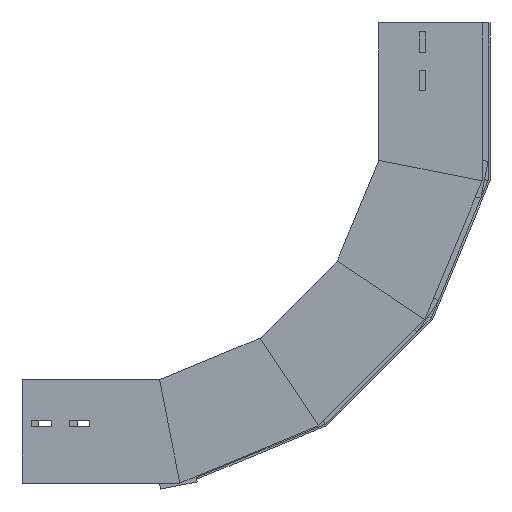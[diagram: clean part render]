
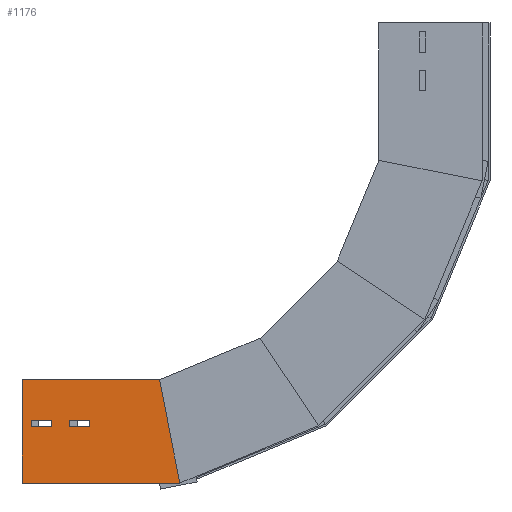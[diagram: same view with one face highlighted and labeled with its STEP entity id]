
A CAD part, left-side view. The second image highlights one B-rep face of the part: STEP entity #1176.
In plain terms, the highlighted planar face has unit normal (-1, 0, 0) as drawn and (1, 0, 0) by its records, which use the part's own axes.
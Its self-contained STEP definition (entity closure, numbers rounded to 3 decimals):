
#14 = EDGE_CURVE ( 'NONE', #973, #311, #1726, .T. ) ;
#24 = ORIENTED_EDGE ( 'NONE', *, *, #599, .T. ) ;
#34 = CARTESIAN_POINT ( 'NONE',  ( 0., 68.5, -9.835 ) ) ;
#46 = DIRECTION ( 'NONE',  ( 0., -1., 0. ) ) ;
#49 = EDGE_LOOP ( 'NONE', ( #577, #1429, #967, #1666 ) ) ;
#86 = ORIENTED_EDGE ( 'NONE', *, *, #884, .T. ) ;
#91 = EDGE_CURVE ( 'NONE', #311, #1499, #1004, .T. ) ;
#94 = DIRECTION ( 'NONE',  ( 0., 0., 1. ) ) ;
#117 = VECTOR ( 'NONE', #1771, 1000. ) ;
#123 = LINE ( 'NONE', #855, #1088 ) ;
#137 = VECTOR ( 'NONE', #46, 1000. ) ;
#141 = VECTOR ( 'NONE', #1344, 1000. ) ;
#205 = CARTESIAN_POINT ( 'NONE',  ( 0., 61.5, -51.505 ) ) ;
#218 = DIRECTION ( 'NONE',  ( 0., 0., 1. ) ) ;
#249 = VERTEX_POINT ( 'NONE', #34 ) ;
#269 = VECTOR ( 'NONE', #218, 1000. ) ;
#286 = EDGE_CURVE ( 'NONE', #1499, #1380, #1226, .T. ) ;
#296 = DIRECTION ( 'NONE',  ( 0., 0., -1. ) ) ;
#311 = VERTEX_POINT ( 'NONE', #365 ) ;
#314 = EDGE_CURVE ( 'NONE', #1353, #318, #944, .T. ) ;
#318 = VERTEX_POINT ( 'NONE', #1066 ) ;
#365 = CARTESIAN_POINT ( 'NONE',  ( 0., 112.5, 0. ) ) ;
#421 = CARTESIAN_POINT ( 'NONE',  ( 0., 68.5, -9.835 ) ) ;
#477 = CARTESIAN_POINT ( 'NONE',  ( 0., 112.5, -149.722 ) ) ;
#483 = CARTESIAN_POINT ( 'NONE',  ( 0., 32.93, -165.55 ) ) ;
#490 = EDGE_LOOP ( 'NONE', ( #1543, #953, #86, #24 ) ) ;
#517 = FACE_OUTER_BOUND ( 'NONE', #841, .T. ) ;
#535 = AXIS2_PLACEMENT_3D ( 'NONE', #690, #540, #1287 ) ;
#540 = DIRECTION ( 'NONE',  ( -1., 0., 0. ) ) ;
#546 = DIRECTION ( 'NONE',  ( 0., 1., 0. ) ) ;
#549 = PLANE ( 'NONE',  #535 ) ;
#577 = ORIENTED_EDGE ( 'NONE', *, *, #1175, .T. ) ;
#589 = VECTOR ( 'NONE', #296, 1000. ) ;
#599 = EDGE_CURVE ( 'NONE', #1505, #1619, #1678, .T. ) ;
#608 = LINE ( 'NONE', #1375, #137 ) ;
#622 = VECTOR ( 'NONE', #1740, 1000. ) ;
#630 = VECTOR ( 'NONE', #546, 1000. ) ;
#690 = CARTESIAN_POINT ( 'NONE',  ( 0., 0., 0. ) ) ;
#697 = FACE_BOUND ( 'NONE', #49, .T. ) ;
#720 = CARTESIAN_POINT ( 'NONE',  ( 0., 68.5, -31.835 ) ) ;
#735 = CARTESIAN_POINT ( 'NONE',  ( 0., 68.5, -51.505 ) ) ;
#763 = EDGE_CURVE ( 'NONE', #799, #1353, #880, .T. ) ;
#767 = CARTESIAN_POINT ( 'NONE',  ( 0., 61.5, -73.505 ) ) ;
#799 = VERTEX_POINT ( 'NONE', #720 ) ;
#805 = VECTOR ( 'NONE', #94, 1000. ) ;
#811 = LINE ( 'NONE', #1256, #1613 ) ;
#823 = ORIENTED_EDGE ( 'NONE', *, *, #14, .F. ) ;
#841 = EDGE_LOOP ( 'NONE', ( #917, #823, #1465, #1224 ) ) ;
#855 = CARTESIAN_POINT ( 'NONE',  ( 0., 68.5, -9.835 ) ) ;
#861 = CARTESIAN_POINT ( 'NONE',  ( 0., 68.5, -31.835 ) ) ;
#863 = CARTESIAN_POINT ( 'NONE',  ( 0., 68.5, -73.505 ) ) ;
#880 = LINE ( 'NONE', #861, #1188 ) ;
#884 = EDGE_CURVE ( 'NONE', #1288, #1505, #608, .T. ) ;
#909 = VERTEX_POINT ( 'NONE', #735 ) ;
#917 = ORIENTED_EDGE ( 'NONE', *, *, #91, .F. ) ;
#944 = LINE ( 'NONE', #1541, #269 ) ;
#953 = ORIENTED_EDGE ( 'NONE', *, *, #1431, .T. ) ;
#957 = CARTESIAN_POINT ( 'NONE',  ( 0., 61.5, -51.505 ) ) ;
#967 = ORIENTED_EDGE ( 'NONE', *, *, #763, .T. ) ;
#973 = VERTEX_POINT ( 'NONE', #1116 ) ;
#1004 = LINE ( 'NONE', #1022, #117 ) ;
#1022 = CARTESIAN_POINT ( 'NONE',  ( 0., 112.5, 0. ) ) ;
#1042 = EDGE_CURVE ( 'NONE', #1619, #909, #811, .T. ) ;
#1066 = CARTESIAN_POINT ( 'NONE',  ( 0., 61.5, -9.835 ) ) ;
#1070 = DIRECTION ( 'NONE',  ( 0., -0.981, -0.195 ) ) ;
#1088 = VECTOR ( 'NONE', #1585, 1000. ) ;
#1116 = CARTESIAN_POINT ( 'NONE',  ( 0., 0., 0. ) ) ;
#1175 = EDGE_CURVE ( 'NONE', #318, #249, #123, .T. ) ;
#1176 = ADVANCED_FACE ( 'NONE', ( #1428, #517, #697 ), #549, .F. ) ;
#1181 = CARTESIAN_POINT ( 'NONE',  ( 0., 0., -172.1 ) ) ;
#1188 = VECTOR ( 'NONE', #1708, 1000. ) ;
#1224 = ORIENTED_EDGE ( 'NONE', *, *, #286, .F. ) ;
#1226 = LINE ( 'NONE', #483, #1438 ) ;
#1246 = CARTESIAN_POINT ( 'NONE',  ( 0., 68.5, -51.505 ) ) ;
#1256 = CARTESIAN_POINT ( 'NONE',  ( 0., 68.5, -51.505 ) ) ;
#1287 = DIRECTION ( 'NONE',  ( 0., 0., 1. ) ) ;
#1288 = VERTEX_POINT ( 'NONE', #863 ) ;
#1300 = LINE ( 'NONE', #421, #622 ) ;
#1344 = DIRECTION ( 'NONE',  ( 0., 0., -1. ) ) ;
#1353 = VERTEX_POINT ( 'NONE', #1880 ) ;
#1375 = CARTESIAN_POINT ( 'NONE',  ( 0., 68.5, -73.505 ) ) ;
#1380 = VERTEX_POINT ( 'NONE', #1181 ) ;
#1407 = DIRECTION ( 'NONE',  ( 0., 1., 0. ) ) ;
#1424 = CARTESIAN_POINT ( 'NONE',  ( 0., 0., 0. ) ) ;
#1428 = FACE_BOUND ( 'NONE', #490, .T. ) ;
#1429 = ORIENTED_EDGE ( 'NONE', *, *, #1651, .T. ) ;
#1431 = EDGE_CURVE ( 'NONE', #909, #1288, #1646, .T. ) ;
#1438 = VECTOR ( 'NONE', #1070, 1000. ) ;
#1465 = ORIENTED_EDGE ( 'NONE', *, *, #1874, .T. ) ;
#1469 = LINE ( 'NONE', #1725, #589 ) ;
#1499 = VERTEX_POINT ( 'NONE', #477 ) ;
#1505 = VERTEX_POINT ( 'NONE', #767 ) ;
#1541 = CARTESIAN_POINT ( 'NONE',  ( 0., 61.5, -9.835 ) ) ;
#1543 = ORIENTED_EDGE ( 'NONE', *, *, #1042, .T. ) ;
#1585 = DIRECTION ( 'NONE',  ( 0., 1., 0. ) ) ;
#1613 = VECTOR ( 'NONE', #1407, 1000. ) ;
#1619 = VERTEX_POINT ( 'NONE', #957 ) ;
#1646 = LINE ( 'NONE', #1246, #141 ) ;
#1651 = EDGE_CURVE ( 'NONE', #249, #799, #1300, .T. ) ;
#1666 = ORIENTED_EDGE ( 'NONE', *, *, #314, .T. ) ;
#1678 = LINE ( 'NONE', #205, #805 ) ;
#1708 = DIRECTION ( 'NONE',  ( 0., -1., 0. ) ) ;
#1725 = CARTESIAN_POINT ( 'NONE',  ( 0., 0., 0. ) ) ;
#1726 = LINE ( 'NONE', #1424, #630 ) ;
#1740 = DIRECTION ( 'NONE',  ( 0., 0., -1. ) ) ;
#1771 = DIRECTION ( 'NONE',  ( 0., 0., -1. ) ) ;
#1874 = EDGE_CURVE ( 'NONE', #973, #1380, #1469, .T. ) ;
#1880 = CARTESIAN_POINT ( 'NONE',  ( 0., 61.5, -31.835 ) ) ;
